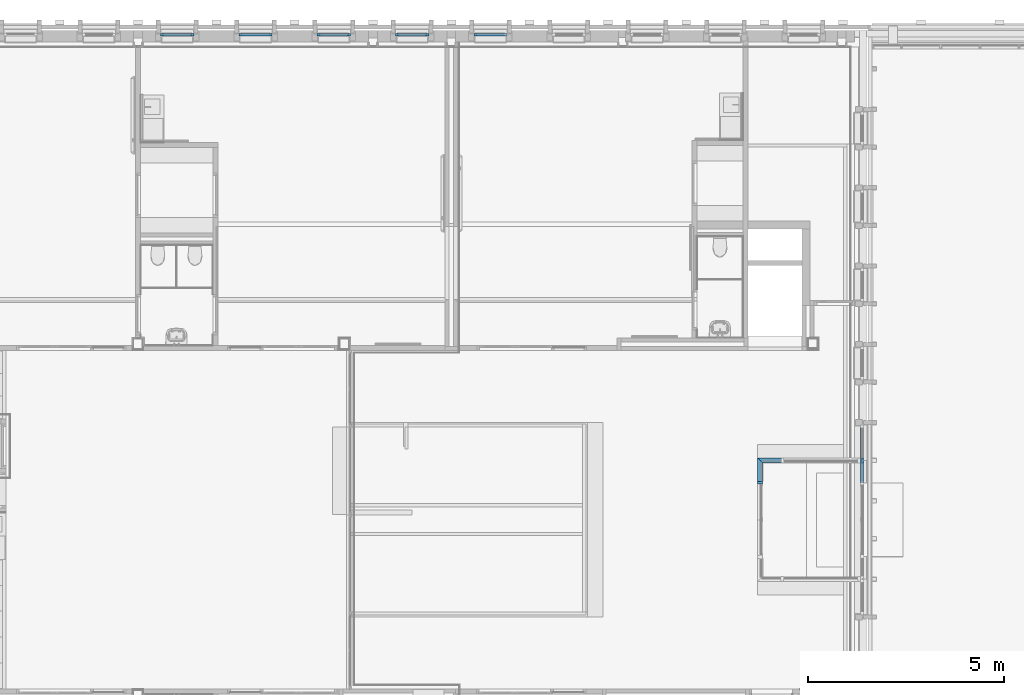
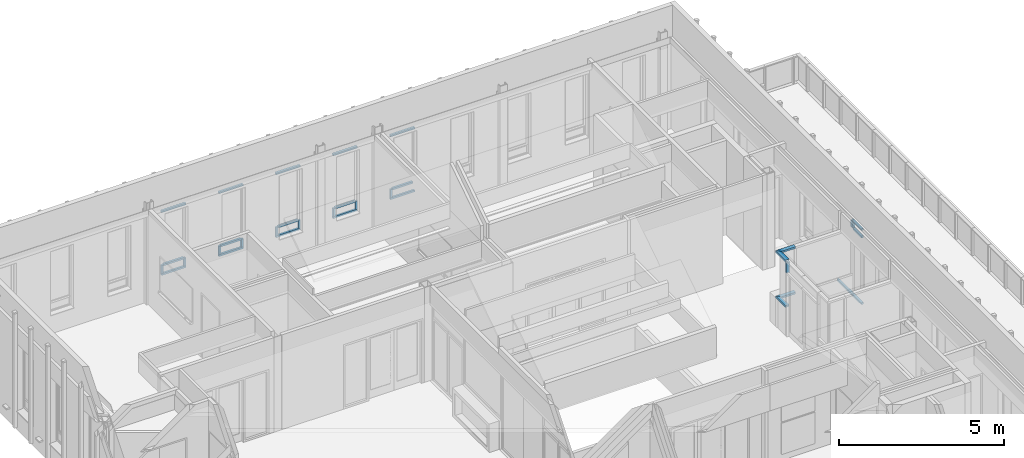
# One storey, part 14 of 118: 37 members, 9 elements without a shape of their own.
"""IFC2X3 building model written with IfcOpenShell, lengths in millimetres."""

from ifc_helpers import new_model, entity, si_unit, converted_unit, derived_unit, direction, frame, origin, origin_2d_with_axis, place, context, subcontext, project, spatial, rectangle, extrude, clip, halfspace, source, transform, mapped, material, material_list, type_object, type_shapes, element, aggregate, save


model = new_model("IFC2X3")

# Units and contexts
model_context = context("Model", 3, precision=0.01, world=origin(), true_north=direction((6.123031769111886e-17, 1.0)))
plan_context = context("Plan", 3, precision=0.01, world=origin(), true_north=direction((6.123031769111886e-17, 1.0)))
body_context = subcontext(model_context, "Body", "Model", "MODEL_VIEW")
ifc_project = project(units=[si_unit("LENGTHUNIT", "METRE", prefix="MILLI"), si_unit("AREAUNIT", "SQUARE_METRE"), si_unit("VOLUMEUNIT", "CUBIC_METRE"), converted_unit("PLANEANGLEUNIT", "DEGREE", entity("IfcRatioMeasure", 0.017453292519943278), si_unit("PLANEANGLEUNIT", "RADIAN"), dimensions=[0, 0, 0, 0, 0, 0, 0]), si_unit("MASSUNIT", "GRAM", prefix="KILO"), derived_unit("MASSDENSITYUNIT", [(si_unit("MASSUNIT", "GRAM", prefix="KILO"), 1), (si_unit("LENGTHUNIT", "METRE"), -3)]), derived_unit("IONCONCENTRATIONUNIT", [(si_unit("MASSUNIT", "GRAM", prefix="KILO"), 1), (si_unit("LENGTHUNIT", "METRE"), -3)]), derived_unit("MOMENTOFINERTIAUNIT", [(si_unit("LENGTHUNIT", "METRE"), 4)]), si_unit("TIMEUNIT", "SECOND"), si_unit("FREQUENCYUNIT", "HERTZ"), si_unit("THERMODYNAMICTEMPERATUREUNIT", "DEGREE_CELSIUS"), derived_unit("THERMALTRANSMITTANCEUNIT", [(si_unit("MASSUNIT", "GRAM", prefix="KILO"), 1), (si_unit("THERMODYNAMICTEMPERATUREUNIT", "KELVIN"), -1), (si_unit("TIMEUNIT", "SECOND"), -3)]), derived_unit("THERMALCONDUCTANCEUNIT", [(si_unit("MASSUNIT", "GRAM", prefix="KILO"), 1), (si_unit("THERMODYNAMICTEMPERATUREUNIT", "KELVIN"), -1), (si_unit("TIMEUNIT", "SECOND"), -3), (si_unit("LENGTHUNIT", "METRE"), 1)]), derived_unit("VOLUMETRICFLOWRATEUNIT", [(si_unit("LENGTHUNIT", "METRE"), 3), (si_unit("TIMEUNIT", "SECOND"), -1)]), derived_unit("MASSFLOWRATEUNIT", [(si_unit("MASSUNIT", "GRAM", prefix="KILO"), 1), (si_unit("TIMEUNIT", "SECOND"), -1)]), derived_unit("ROTATIONALFREQUENCYUNIT", [(si_unit("TIMEUNIT", "SECOND"), -1)]), si_unit("ELECTRICCURRENTUNIT", "AMPERE"), si_unit("ELECTRICVOLTAGEUNIT", "VOLT"), si_unit("POWERUNIT", "WATT"), si_unit("FORCEUNIT", "NEWTON", prefix="KILO"), si_unit("ILLUMINANCEUNIT", "LUX"), si_unit("LUMINOUSFLUXUNIT", "LUMEN"), si_unit("LUMINOUSINTENSITYUNIT", "CANDELA"), derived_unit("USERDEFINED", [(si_unit("MASSUNIT", "GRAM", prefix="KILO"), -1), (si_unit("LENGTHUNIT", "METRE"), -2), (si_unit("TIMEUNIT", "SECOND"), 3), (si_unit("LUMINOUSFLUXUNIT", "LUMEN"), 1)]), derived_unit("USERDEFINED", [(si_unit("MASSUNIT", "GRAM", prefix="KILO"), 1), (si_unit("TIMEUNIT", "SECOND"), -3), (si_unit("LENGTHUNIT", "METRE"), 3), (si_unit("ELECTRICCURRENTUNIT", "AMPERE"), -2)]), derived_unit("SOUNDPOWERUNIT", [(si_unit("MASSUNIT", "GRAM", prefix="KILO"), 1), (si_unit("TIMEUNIT", "SECOND"), -3), (si_unit("LENGTHUNIT", "METRE"), 2)]), derived_unit("SOUNDPRESSUREUNIT", [(si_unit("MASSUNIT", "GRAM", prefix="KILO"), 1), (si_unit("LENGTHUNIT", "METRE"), -1), (si_unit("TIMEUNIT", "SECOND"), -2)]), derived_unit("LINEARVELOCITYUNIT", [(si_unit("LENGTHUNIT", "METRE"), 1), (si_unit("TIMEUNIT", "SECOND"), -1)]), si_unit("PRESSUREUNIT", "PASCAL"), derived_unit("USERDEFINED", [(si_unit("MASSUNIT", "GRAM", prefix="KILO"), 1), (si_unit("LENGTHUNIT", "METRE"), -2), (si_unit("TIMEUNIT", "SECOND"), -2)]), derived_unit("LINEARFORCEUNIT", [(si_unit("MASSUNIT", "GRAM", prefix="KILO"), 1), (si_unit("TIMEUNIT", "SECOND"), -2)]), derived_unit("PLANARFORCEUNIT", [(si_unit("MASSUNIT", "GRAM", prefix="KILO"), 1), (si_unit("LENGTHUNIT", "METRE"), -1), (si_unit("TIMEUNIT", "SECOND"), -2)]), derived_unit("SPECIFICHEATCAPACITYUNIT", [(si_unit("THERMODYNAMICTEMPERATUREUNIT", "KELVIN"), -1), (si_unit("LENGTHUNIT", "METRE"), 2), (si_unit("TIMEUNIT", "SECOND"), -2)]), derived_unit("HEATINGVALUEUNIT", [(si_unit("LENGTHUNIT", "METRE"), 2), (si_unit("TIMEUNIT", "SECOND"), -2)]), derived_unit("VAPORPERMEABILITYUNIT", [(si_unit("LENGTHUNIT", "METRE"), -1), (si_unit("TIMEUNIT", "SECOND"), 1)]), derived_unit("DYNAMICVISCOSITYUNIT", [(si_unit("MASSUNIT", "GRAM", prefix="KILO"), 1), (si_unit("TIMEUNIT", "SECOND"), -1), (si_unit("LENGTHUNIT", "METRE"), -1)]), derived_unit("THERMALEXPANSIONCOEFFICIENTUNIT", [(si_unit("THERMODYNAMICTEMPERATUREUNIT", "KELVIN"), -1)]), derived_unit("MODULUSOFELASTICITYUNIT", [(si_unit("MASSUNIT", "GRAM", prefix="KILO"), 1), (si_unit("LENGTHUNIT", "METRE"), -1), (si_unit("TIMEUNIT", "SECOND"), -2)]), derived_unit("ISOTHERMALMOISTURECAPACITYUNIT", [(si_unit("LENGTHUNIT", "METRE"), 3), (si_unit("MASSUNIT", "GRAM", prefix="KILO"), -1)]), derived_unit("MOISTUREDIFFUSIVITYUNIT", [(si_unit("TIMEUNIT", "SECOND"), -1), (si_unit("LENGTHUNIT", "METRE"), 2)])], contexts=[model_context, plan_context])

# Site, building, storey
site_placement = place(None, origin())
site = spatial("IfcSite", under=ifc_project, at=site_placement, Name="Locatie", CompositionType="ELEMENT")
building_placement = place(site_placement, origin())
building = spatial("IfcBuilding", under=site, at=building_placement, Name="Bouwwerk", CompositionType="ELEMENT")
storey_placement = place(building_placement, frame((0.0, 0.0, 7800.0)))
storey = spatial("IfcBuildingStorey", under=building, at=storey_placement, Name="02 tweede verdieping", CompositionType="ELEMENT", Elevation=7800.000000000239)

# Curtain wall, member
curtain_wall_type_1 = type_object("IfcCurtainWallType", Name="Curtain Wall:NLRS_21_CW_Ontwerpkozijn_aluminium_RT72", PredefinedType="NOTDEFINED")
curtain_wall_1_placement = place(storey_placement, frame((0.0, 0.0, -7800.0)))
curtain_wall_1 = element("IfcCurtainWall", 1, at=curtain_wall_1_placement, inside=storey, type_object=curtain_wall_type_1, Name="Curtain Wall:NLRS_21_CW_Ontwerpkozijn_aluminium_RT72", ObjectType="Curtain Wall:NLRS_21_CW_Ontwerpkozijn_aluminium_RT72")
ifc_material_1 = material(Name="a_kozijn")
ifc_material_2 = material(Name="<Unnamed>")
ifc_material_list = material_list([ifc_material_2, ifc_material_1])
member_type_1 = type_object("IfcMemberType", Name="Rectangular Mullion:RT72_Vb_raam", PredefinedType="MULLION", material=ifc_material_list)
shared_shape_1 = source(origin(), body_context, "Body", "SweptSolid", [
    extrude(rectangle(XDim=71.99999999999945, YDim=68.00000000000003, at=origin_2d_with_axis()), frame((-34.0, -36.0, -850.0), z_axis=(0.0, 0.0, 1.0), x_axis=(0.0, -1.0, 0.0)), (0.0, 0.0, 1.0), 850.0000000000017),
])
type_shapes(member_type_1, [shared_shape_1])
member_1_placement = place(curtain_wall_1_placement, frame((25725.0, 34553.0, 10863.0), z_axis=(1.0, 0.0, 0.0), x_axis=(0.0, 0.0, 1.0)))
member_1 = element("IfcMember", 2, at=member_1_placement, type_object=member_type_1, material=ifc_material_1, Name="Rectangular Mullion:RT72_Vb_raam", ObjectType="Rectangular Mullion:RT72_Vb_raam", context=body_context, shape_type="MappedRepresentation", body=[
    mapped(shared_shape_1, transform((0.0, 0.0, 0.0), scale=1.0)),
])

curtain_wall_2_placement = place(storey_placement, frame((0.0, 0.0, -7800.0)))
curtain_wall_2 = element("IfcCurtainWall", 3, at=curtain_wall_2_placement, inside=storey, type_object=curtain_wall_type_1, Name="Curtain Wall:NLRS_21_CW_Ontwerpkozijn_aluminium_RT72", ObjectType="Curtain Wall:NLRS_21_CW_Ontwerpkozijn_aluminium_RT72")
member_2_placement = place(curtain_wall_2_placement, frame((19725.0, 34553.0, 10863.0), z_axis=(1.0, 0.0, 0.0), x_axis=(0.0, 0.0, 1.0)))
member_2 = element("IfcMember", 4, at=member_2_placement, type_object=member_type_1, material=ifc_material_1, Name="Rectangular Mullion:RT72_Vb_raam", ObjectType="Rectangular Mullion:RT72_Vb_raam", context=body_context, shape_type="MappedRepresentation", body=[
    mapped(shared_shape_1, transform((0.0, 0.0, 0.0), scale=1.0)),
])

curtain_wall_3_placement = place(storey_placement, frame((0.0, 0.0, -7800.0)))
curtain_wall_3 = element("IfcCurtainWall", 5, at=curtain_wall_3_placement, inside=storey, type_object=curtain_wall_type_1, Name="Curtain Wall:NLRS_21_CW_Ontwerpkozijn_aluminium_RT72", ObjectType="Curtain Wall:NLRS_21_CW_Ontwerpkozijn_aluminium_RT72")
member_3_placement = place(curtain_wall_3_placement, frame((23725.0, 34553.0, 10863.0), z_axis=(1.0, 0.0, 0.0), x_axis=(0.0, 0.0, 1.0)))
member_3 = element("IfcMember", 6, at=member_3_placement, type_object=member_type_1, material=ifc_material_1, Name="Rectangular Mullion:RT72_Vb_raam", ObjectType="Rectangular Mullion:RT72_Vb_raam", context=body_context, shape_type="MappedRepresentation", body=[
    mapped(shared_shape_1, transform((0.0, 0.0, 0.0), scale=1.0)),
])

curtain_wall_4_placement = place(storey_placement, frame((0.0, 0.0, -7800.0)))
curtain_wall_4 = element("IfcCurtainWall", 7, at=curtain_wall_4_placement, inside=storey, type_object=curtain_wall_type_1, Name="Curtain Wall:NLRS_21_CW_Ontwerpkozijn_aluminium_RT72", ObjectType="Curtain Wall:NLRS_21_CW_Ontwerpkozijn_aluminium_RT72")
member_4_placement = place(curtain_wall_4_placement, frame((21725.0, 34553.0, 10863.0), z_axis=(1.0, 0.0, 0.0), x_axis=(0.0, 0.0, 1.0)))
member_4 = element("IfcMember", 8, at=member_4_placement, type_object=member_type_1, material=ifc_material_1, Name="Rectangular Mullion:RT72_Vb_raam", ObjectType="Rectangular Mullion:RT72_Vb_raam", context=body_context, shape_type="MappedRepresentation", body=[
    mapped(shared_shape_1, transform((0.0, 0.0, 0.0), scale=1.0)),
])

curtain_wall_5_placement = place(storey_placement, frame((0.0, 0.0, -7800.0)))
curtain_wall_5 = element("IfcCurtainWall", 9, at=curtain_wall_5_placement, inside=storey, type_object=curtain_wall_type_1, Name="Curtain Wall:NLRS_21_CW_Ontwerpkozijn_aluminium_RT72", ObjectType="Curtain Wall:NLRS_21_CW_Ontwerpkozijn_aluminium_RT72")
member_5_placement = place(curtain_wall_5_placement, frame((17725.0, 34553.0, 10863.0), z_axis=(1.0, 0.0, 0.0), x_axis=(0.0, 0.0, 1.0)))
member_5 = element("IfcMember", 10, at=member_5_placement, type_object=member_type_1, material=ifc_material_1, Name="Rectangular Mullion:RT72_Vb_raam", ObjectType="Rectangular Mullion:RT72_Vb_raam", context=body_context, shape_type="MappedRepresentation", body=[
    mapped(shared_shape_1, transform((0.0, 0.0, 0.0), scale=1.0)),
])

# Member
member_type_2 = type_object("IfcMemberType", Name="Rectangular Mullion:RT72_Vo_raam", PredefinedType="MULLION", material=ifc_material_list)
shared_shape_2 = source(origin(), body_context, "Body", "SweptSolid", [
    extrude(rectangle(XDim=71.99999999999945, YDim=68.00000000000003, at=origin_2d_with_axis()), frame((-34.0, -36.0, -850.0), z_axis=(0.0, 0.0, 1.0), x_axis=(0.0, -1.0, 0.0)), (0.0, 0.0, 1.0), 850.0000000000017),
])
type_shapes(member_type_2, [shared_shape_2])
member_6_placement = place(curtain_wall_1_placement, frame((24875.0, 34553.0, 8473.0), z_axis=(-1.0, 0.0, 0.0), x_axis=(0.0, 0.0, -1.0)))
member_6 = element("IfcMember", 11, at=member_6_placement, type_object=member_type_2, material=ifc_material_1, Name="Rectangular Mullion:RT72_Vo_raam", ObjectType="Rectangular Mullion:RT72_Vo_raam", context=body_context, shape_type="MappedRepresentation", body=[
    mapped(shared_shape_2, transform((0.0, 0.0, 0.0), scale=1.0)),
])

member_7_placement = place(curtain_wall_2_placement, frame((18875.0, 34553.0, 8473.0), z_axis=(-1.0, 0.0, 0.0), x_axis=(0.0, 0.0, -1.0)))
member_7 = element("IfcMember", 12, at=member_7_placement, type_object=member_type_2, material=ifc_material_1, Name="Rectangular Mullion:RT72_Vo_raam", ObjectType="Rectangular Mullion:RT72_Vo_raam", context=body_context, shape_type="MappedRepresentation", body=[
    mapped(shared_shape_2, transform((0.0, 0.0, 0.0), scale=1.0)),
])

member_8_placement = place(curtain_wall_3_placement, frame((22875.0, 34553.0, 8473.0), z_axis=(-1.0, 0.0, 0.0), x_axis=(0.0, 0.0, -1.0)))
member_8 = element("IfcMember", 13, at=member_8_placement, type_object=member_type_2, material=ifc_material_1, Name="Rectangular Mullion:RT72_Vo_raam", ObjectType="Rectangular Mullion:RT72_Vo_raam", context=body_context, shape_type="MappedRepresentation", body=[
    mapped(shared_shape_2, transform((0.0, 0.0, 0.0), scale=1.0)),
])

member_9_placement = place(curtain_wall_4_placement, frame((20875.0, 34553.0, 8473.0), z_axis=(-1.0, 0.0, 0.0), x_axis=(0.0, 0.0, -1.0)))
member_9 = element("IfcMember", 14, at=member_9_placement, type_object=member_type_2, material=ifc_material_1, Name="Rectangular Mullion:RT72_Vo_raam", ObjectType="Rectangular Mullion:RT72_Vo_raam", context=body_context, shape_type="MappedRepresentation", body=[
    mapped(shared_shape_2, transform((0.0, 0.0, 0.0), scale=1.0)),
])

member_10_placement = place(curtain_wall_5_placement, frame((16875.0, 34553.0, 8473.0), z_axis=(-1.0, 0.0, 0.0), x_axis=(0.0, 0.0, -1.0)))
member_10 = element("IfcMember", 15, at=member_10_placement, type_object=member_type_2, material=ifc_material_1, Name="Rectangular Mullion:RT72_Vo_raam", ObjectType="Rectangular Mullion:RT72_Vo_raam", context=body_context, shape_type="MappedRepresentation", body=[
    mapped(shared_shape_2, transform((0.0, 0.0, 0.0), scale=1.0)),
])

member_type_3 = type_object("IfcMemberType", Name="Rectangular Mullion:RT72_Hl_raam", PredefinedType="MULLION", material=ifc_material_list)
shared_shape_3 = source(origin(), body_context, "Body", "SweptSolid", [
    extrude(rectangle(XDim=71.99999999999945, YDim=68.00000000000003, at=origin_2d_with_axis()), frame((-34.0, -36.0, -301.0), z_axis=(0.0, 0.0, 1.0), x_axis=(0.0, -1.0, 0.0)), (0.0, 0.0, 1.0), 301.00000000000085),
])
type_shapes(member_type_3, [shared_shape_3])
member_11_placement = place(curtain_wall_2_placement, frame((19725.0, 34553.0, 8541.0), z_axis=(0.0, 0.0, -1.0), x_axis=(1.0, 0.0, 0.0)))
member_11 = element("IfcMember", 16, at=member_11_placement, type_object=member_type_3, material=ifc_material_1, Name="Rectangular Mullion:RT72_Hl_raam", ObjectType="Rectangular Mullion:RT72_Hl_raam", context=body_context, shape_type="MappedRepresentation", body=[
    mapped(shared_shape_3, transform((0.0, 0.0, 0.0), scale=1.0)),
])

member_12_placement = place(curtain_wall_3_placement, frame((23725.0, 34553.0, 8541.0), z_axis=(0.0, 0.0, -1.0), x_axis=(1.0, 0.0, 0.0)))
member_12 = element("IfcMember", 17, at=member_12_placement, type_object=member_type_3, material=ifc_material_1, Name="Rectangular Mullion:RT72_Hl_raam", ObjectType="Rectangular Mullion:RT72_Hl_raam", context=body_context, shape_type="MappedRepresentation", body=[
    mapped(shared_shape_3, transform((0.0, 0.0, 0.0), scale=1.0)),
])

member_13_placement = place(curtain_wall_4_placement, frame((21725.0, 34553.0, 8541.0), z_axis=(0.0, 0.0, -1.0), x_axis=(1.0, 0.0, 0.0)))
member_13 = element("IfcMember", 18, at=member_13_placement, type_object=member_type_3, material=ifc_material_1, Name="Rectangular Mullion:RT72_Hl_raam", ObjectType="Rectangular Mullion:RT72_Hl_raam", context=body_context, shape_type="MappedRepresentation", body=[
    mapped(shared_shape_3, transform((0.0, 0.0, 0.0), scale=1.0)),
])

member_14_placement = place(curtain_wall_5_placement, frame((17725.0, 34553.0, 8541.0), z_axis=(0.0, 0.0, -1.0), x_axis=(1.0, 0.0, 0.0)))
member_14 = element("IfcMember", 19, at=member_14_placement, type_object=member_type_3, material=ifc_material_1, Name="Rectangular Mullion:RT72_Hl_raam", ObjectType="Rectangular Mullion:RT72_Hl_raam", context=body_context, shape_type="MappedRepresentation", body=[
    mapped(shared_shape_3, transform((0.0, 0.0, 0.0), scale=1.0)),
])

member_type_4 = type_object("IfcMemberType", Name="Rectangular Mullion:RT72_Hr_raam", PredefinedType="MULLION", material=ifc_material_list)
shared_shape_4 = source(origin(), body_context, "Body", "SweptSolid", [
    extrude(rectangle(XDim=71.99999999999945, YDim=68.00000000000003, at=origin_2d_with_axis()), frame((-34.0, -36.0, -301.0), z_axis=(0.0, 0.0, 1.0), x_axis=(0.0, -1.0, 0.0)), (0.0, 0.0, 1.0), 301.00000000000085),
])
type_shapes(member_type_4, [shared_shape_4])
member_15_placement = place(curtain_wall_1_placement, frame((24875.0, 34553.0, 8842.0), z_axis=(0.0, 0.0, 1.0), x_axis=(-1.0, 0.0, 0.0)))
member_15 = element("IfcMember", 20, at=member_15_placement, type_object=member_type_4, material=ifc_material_1, Name="Rectangular Mullion:RT72_Hr_raam", ObjectType="Rectangular Mullion:RT72_Hr_raam", context=body_context, shape_type="MappedRepresentation", body=[
    mapped(shared_shape_4, transform((0.0, 0.0, 0.0), scale=1.0)),
])

member_16_placement = place(curtain_wall_2_placement, frame((18875.0, 34553.0, 8842.0), z_axis=(0.0, 0.0, 1.0), x_axis=(-1.0, 0.0, 0.0)))
member_16 = element("IfcMember", 21, at=member_16_placement, type_object=member_type_4, material=ifc_material_1, Name="Rectangular Mullion:RT72_Hr_raam", ObjectType="Rectangular Mullion:RT72_Hr_raam", context=body_context, shape_type="MappedRepresentation", body=[
    mapped(shared_shape_4, transform((0.0, 0.0, 0.0), scale=1.0)),
])

member_17_placement = place(curtain_wall_3_placement, frame((22875.0, 34553.0, 8842.0), z_axis=(0.0, 0.0, 1.0), x_axis=(-1.0, 0.0, 0.0)))
member_17 = element("IfcMember", 22, at=member_17_placement, type_object=member_type_4, material=ifc_material_1, Name="Rectangular Mullion:RT72_Hr_raam", ObjectType="Rectangular Mullion:RT72_Hr_raam", context=body_context, shape_type="MappedRepresentation", body=[
    mapped(shared_shape_4, transform((0.0, 0.0, 0.0), scale=1.0)),
])

member_18_placement = place(curtain_wall_4_placement, frame((20875.0, 34553.0, 8842.0), z_axis=(0.0, 0.0, 1.0), x_axis=(-1.0, 0.0, 0.0)))
member_18 = element("IfcMember", 23, at=member_18_placement, type_object=member_type_4, material=ifc_material_1, Name="Rectangular Mullion:RT72_Hr_raam", ObjectType="Rectangular Mullion:RT72_Hr_raam", context=body_context, shape_type="MappedRepresentation", body=[
    mapped(shared_shape_4, transform((0.0, 0.0, 0.0), scale=1.0)),
])

member_19_placement = place(curtain_wall_5_placement, frame((16875.0, 34553.0, 8842.0), z_axis=(0.0, 0.0, 1.0), x_axis=(-1.0, 0.0, 0.0)))
member_19 = element("IfcMember", 24, at=member_19_placement, type_object=member_type_4, material=ifc_material_1, Name="Rectangular Mullion:RT72_Hr_raam", ObjectType="Rectangular Mullion:RT72_Hr_raam", context=body_context, shape_type="MappedRepresentation", body=[
    mapped(shared_shape_4, transform((0.0, 0.0, 0.0), scale=1.0)),
])

member_type_5 = type_object("IfcMemberType", Name="Rectangular Mullion:RT72_Vb_raam", PredefinedType="MULLION", material=ifc_material_list)
shared_shape_5 = source(origin(), body_context, "Body", "SweptSolid", [
    extrude(rectangle(XDim=71.99999999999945, YDim=68.00000000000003, at=origin_2d_with_axis()), frame((0.0, -36.0, -714.0), z_axis=(0.0, 0.0, 1.0), x_axis=(0.0, -1.0, 0.0)), (0.0, 0.0, 1.0), 714.0000000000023),
])
type_shapes(member_type_5, [shared_shape_5])
member_20_placement = place(curtain_wall_1_placement, frame((25657.0, 34553.0, 8842.0), z_axis=(1.0, 0.0, 0.0), x_axis=(0.0, 0.0, 1.0)))
member_20 = element("IfcMember", 25, at=member_20_placement, type_object=member_type_5, material=ifc_material_1, Name="Rectangular Mullion:RT72_Vb_raam", ObjectType="Rectangular Mullion:RT72_Vb_raam", context=body_context, shape_type="MappedRepresentation", body=[
    mapped(shared_shape_5, transform((0.0, 0.0, 0.0), scale=1.0)),
])

aggregate(curtain_wall_1, [member_1, member_6, member_15, member_20])

member_21_placement = place(curtain_wall_2_placement, frame((19657.0, 34553.0, 8842.0), z_axis=(1.0, 0.0, 0.0), x_axis=(0.0, 0.0, 1.0)))
member_21 = element("IfcMember", 26, at=member_21_placement, type_object=member_type_5, material=ifc_material_1, Name="Rectangular Mullion:RT72_Vb_raam", ObjectType="Rectangular Mullion:RT72_Vb_raam", context=body_context, shape_type="MappedRepresentation", body=[
    mapped(shared_shape_5, transform((0.0, 0.0, 0.0), scale=1.0)),
])

aggregate(curtain_wall_2, [member_2, member_7, member_11, member_16, member_21])

member_22_placement = place(curtain_wall_3_placement, frame((23657.0, 34553.0, 8842.0), z_axis=(1.0, 0.0, 0.0), x_axis=(0.0, 0.0, 1.0)))
member_22 = element("IfcMember", 27, at=member_22_placement, type_object=member_type_5, material=ifc_material_1, Name="Rectangular Mullion:RT72_Vb_raam", ObjectType="Rectangular Mullion:RT72_Vb_raam", context=body_context, shape_type="MappedRepresentation", body=[
    mapped(shared_shape_5, transform((0.0, 0.0, 0.0), scale=1.0)),
])

aggregate(curtain_wall_3, [member_3, member_8, member_12, member_17, member_22])

member_23_placement = place(curtain_wall_4_placement, frame((21657.0, 34553.0, 8842.0), z_axis=(1.0, 0.0, 0.0), x_axis=(0.0, 0.0, 1.0)))
member_23 = element("IfcMember", 28, at=member_23_placement, type_object=member_type_5, material=ifc_material_1, Name="Rectangular Mullion:RT72_Vb_raam", ObjectType="Rectangular Mullion:RT72_Vb_raam", context=body_context, shape_type="MappedRepresentation", body=[
    mapped(shared_shape_5, transform((0.0, 0.0, 0.0), scale=1.0)),
])

aggregate(curtain_wall_4, [member_4, member_9, member_13, member_18, member_23])

member_24_placement = place(curtain_wall_5_placement, frame((17657.0, 34553.0, 8842.0), z_axis=(1.0, 0.0, 0.0), x_axis=(0.0, 0.0, 1.0)))
member_24 = element("IfcMember", 29, at=member_24_placement, type_object=member_type_5, material=ifc_material_1, Name="Rectangular Mullion:RT72_Vb_raam", ObjectType="Rectangular Mullion:RT72_Vb_raam", context=body_context, shape_type="MappedRepresentation", body=[
    mapped(shared_shape_5, transform((0.0, 0.0, 0.0), scale=1.0)),
])

aggregate(curtain_wall_5, [member_5, member_10, member_14, member_19, member_24])

# Curtain wall, members
curtain_wall_6_placement = place(storey_placement, frame((0.0, 0.0, -7800.0)))
curtain_wall_6 = element("IfcCurtainWall", 30, at=curtain_wall_6_placement, inside=storey, type_object=curtain_wall_type_1, Name="Curtain Wall:NLRS_21_CW_Ontwerpkozijn_aluminium_RT72", ObjectType="Curtain Wall:NLRS_21_CW_Ontwerpkozijn_aluminium_RT72")
member_type_6 = type_object("IfcMemberType", Name="Rectangular Mullion:RT72_Vo_raam", PredefinedType="MULLION", material=ifc_material_list)
shared_shape_6 = source(origin(), body_context, "Body", "SweptSolid", [
    extrude(rectangle(XDim=71.99999999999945, YDim=68.00000000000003, at=origin_2d_with_axis()), frame((-34.0, -36.0, -875.499999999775), z_axis=(0.0, 0.0, 1.0), x_axis=(0.0, -1.0, 0.0)), (0.0, 0.0, 1.0), 875.499999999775),
])
type_shapes(member_type_6, [shared_shape_6])
member_25_placement = place(curtain_wall_6_placement, frame((34753.0, 24625.0, 8056.0), z_axis=(0.0, 1.0, 0.0), x_axis=(0.0, 0.0, -1.0)))
member_25 = element("IfcMember", 31, at=member_25_placement, type_object=member_type_6, material=ifc_material_1, Name="Rectangular Mullion:RT72_Vo_raam", ObjectType="Rectangular Mullion:RT72_Vo_raam", context=body_context, shape_type="MappedRepresentation", body=[
    mapped(shared_shape_6, transform((0.0, 0.0, 0.0), scale=1.0)),
])
member_type_7 = type_object("IfcMemberType", Name="Rectangular Mullion:RT72_Vb_raam", PredefinedType="MULLION", material=ifc_material_list)
shared_shape_7 = source(origin(), body_context, "Body", "SweptSolid", [
    extrude(rectangle(XDim=71.99999999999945, YDim=68.00000000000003, at=origin_2d_with_axis()), frame((-34.0, -36.0, -537.4999999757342), z_axis=(0.0, 0.0, 1.0), x_axis=(0.0, -1.0, 0.0)), (0.0, 0.0, 1.0), 537.4999999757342),
])
type_shapes(member_type_7, [shared_shape_7])
member_26_placement = place(curtain_wall_6_placement, frame((34753.0, 23139.0, 10863.0), z_axis=(0.0, -1.0, 0.0), x_axis=(0.0, 0.0, 1.0)))
member_26 = element("IfcMember", 32, at=member_26_placement, type_object=member_type_7, material=ifc_material_1, Name="Rectangular Mullion:RT72_Vb_raam", ObjectType="Rectangular Mullion:RT72_Vb_raam", context=body_context, shape_type="MappedRepresentation", body=[
    mapped(shared_shape_7, transform((0.0, 0.0, 0.0), scale=1.0)),
])
member_type_8 = type_object("IfcMemberType", Name="Rectangular Mullion:RT72_Vb_raam", PredefinedType="MULLION", material=ifc_material_list)
shared_shape_8 = source(origin(), body_context, "Body", "SweptSolid", [
    extrude(rectangle(XDim=71.99999999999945, YDim=68.00000000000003, at=origin_2d_with_axis()), frame((-34.0, -36.0, -73.0), z_axis=(0.0, 0.0, 1.0), x_axis=(0.0, -1.0, 0.0)), (0.0, 0.0, 1.0), 72.9999999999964),
])
type_shapes(member_type_8, [shared_shape_8])
member_27_placement = place(curtain_wall_6_placement, frame((34753.0, 23676.499999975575, 10863.0), z_axis=(0.0, -1.0, 0.0), x_axis=(0.0, 0.0, 1.0)))
member_27 = element("IfcMember", 33, at=member_27_placement, type_object=member_type_8, material=ifc_material_1, Name="Rectangular Mullion:RT72_Vb_raam", ObjectType="Rectangular Mullion:RT72_Vb_raam", context=body_context, shape_type="MappedRepresentation", body=[
    mapped(shared_shape_8, transform((0.0, 0.0, 0.0), scale=1.0)),
])
member_type_9 = type_object("IfcMemberType", Name="Rectangular Mullion:RT72_Hl_raam", PredefinedType="MULLION", material=ifc_material_list)
shared_shape_9 = source(origin(), body_context, "Body", "SweptSolid", [
    extrude(rectangle(XDim=71.99999999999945, YDim=68.00000000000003, at=origin_2d_with_axis()), frame((0.0, -36.0, -239.0), z_axis=(0.0, 0.0, 1.0), x_axis=(0.0, -1.0, 0.0)), (0.0, 0.0, 1.0), 238.9999999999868),
])
type_shapes(member_type_9, [shared_shape_9])
member_28_placement = place(curtain_wall_6_placement, frame((34753.0, 23749.49999997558, 10556.0), z_axis=(0.0, 0.0, -1.0), x_axis=(0.0, -1.0, 0.0)))
member_28 = element("IfcMember", 34, at=member_28_placement, type_object=member_type_9, material=ifc_material_1, Name="Rectangular Mullion:RT72_Hl_raam", ObjectType="Rectangular Mullion:RT72_Hl_raam", context=body_context, shape_type="MappedRepresentation", body=[
    mapped(shared_shape_9, transform((0.0, 0.0, 0.0), scale=1.0)),
])
member_type_10 = type_object("IfcMemberType", Name="Rectangular Mullion:RT72_Vo_raam", PredefinedType="MULLION", material=ifc_material_list)
shared_shape_10 = source(origin(), body_context, "Body", "SweptSolid", [
    extrude(rectangle(XDim=71.99999999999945, YDim=68.00000000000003, at=origin_2d_with_axis()), frame((-34.0, -36.0, -73.0), z_axis=(0.0, 0.0, 1.0), x_axis=(0.0, -1.0, 0.0)), (0.0, 0.0, 1.0), 72.9999999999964),
])
type_shapes(member_type_10, [shared_shape_10])
member_29_placement = place(curtain_wall_6_placement, frame((34753.0, 23749.49999997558, 8056.0), z_axis=(0.0, 1.0, 0.0), x_axis=(0.0, 0.0, -1.0)))
member_29 = element("IfcMember", 35, at=member_29_placement, type_object=member_type_10, material=ifc_material_1, Name="Rectangular Mullion:RT72_Vo_raam", ObjectType="Rectangular Mullion:RT72_Vo_raam", context=body_context, shape_type="MappedRepresentation", body=[
    mapped(shared_shape_10, transform((0.0, 0.0, 0.0), scale=1.0)),
])
member_type_11 = type_object("IfcMemberType", Name="Rectangular Mullion:RT72_Hl_raam", PredefinedType="MULLION", material=ifc_material_list)
shared_shape_11 = source(origin(), body_context, "Body", "SweptSolid", [
    extrude(rectangle(XDim=71.99999999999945, YDim=68.00000000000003, at=origin_2d_with_axis()), frame((0.0, -36.0, -239.0), z_axis=(0.0, 0.0, 1.0), x_axis=(0.0, -1.0, 0.0)), (0.0, 0.0, 1.0), 238.9999999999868),
])
type_shapes(member_type_11, [shared_shape_11])
member_30_placement = place(curtain_wall_6_placement, frame((34753.0, 23676.499999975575, 10556.0), z_axis=(0.0, 0.0, -1.0), x_axis=(0.0, -1.0, 0.0)))
member_30 = element("IfcMember", 36, at=member_30_placement, type_object=member_type_11, material=ifc_material_1, Name="Rectangular Mullion:RT72_Hl_raam", ObjectType="Rectangular Mullion:RT72_Hl_raam", context=body_context, shape_type="MappedRepresentation", body=[
    mapped(shared_shape_11, transform((0.0, 0.0, 0.0), scale=1.0)),
])
member_type_12 = type_object("IfcMemberType", Name="Rectangular Mullion:RT72_Vo_raam", PredefinedType="MULLION", material=ifc_material_list)
shared_shape_12 = source(origin(), body_context, "Body", "SweptSolid", [
    extrude(rectangle(XDim=71.99999999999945, YDim=68.00000000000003, at=origin_2d_with_axis()), frame((-34.0, -36.0, -537.4999999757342), z_axis=(0.0, 0.0, 1.0), x_axis=(0.0, -1.0, 0.0)), (0.0, 0.0, 1.0), 537.4999999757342),
])
type_shapes(member_type_12, [shared_shape_12])
member_31_placement = place(curtain_wall_6_placement, frame((34753.0, 23676.499999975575, 8056.0), z_axis=(0.0, 1.0, 0.0), x_axis=(0.0, 0.0, -1.0)))
member_31 = element("IfcMember", 37, at=member_31_placement, type_object=member_type_12, material=ifc_material_1, Name="Rectangular Mullion:RT72_Vo_raam", ObjectType="Rectangular Mullion:RT72_Vo_raam", context=body_context, shape_type="MappedRepresentation", body=[
    mapped(shared_shape_12, transform((0.0, 0.0, 0.0), scale=1.0)),
])
member_type_13 = type_object("IfcMemberType", Name="Rectangular Mullion:RT72_Vm_raam", PredefinedType="MULLION", material=ifc_material_list)
shared_shape_13 = source(origin(), body_context, "Body", "SweptSolid", [
    extrude(rectangle(XDim=71.99999999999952, YDim=77.99999999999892, at=origin_2d_with_axis()), frame((0.0, -36.0, -503.49999997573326), z_axis=(0.0, 0.0, 1.0), x_axis=(0.0, -1.0, 0.0)), (0.0, 0.0, 1.0), 503.49999997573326),
])
type_shapes(member_type_13, [shared_shape_13])
member_32_placement = place(curtain_wall_6_placement, frame((34753.0, 23139.0, 10556.0), z_axis=(0.0, -1.0, 0.0), x_axis=(0.0, 0.0, 1.0)))
member_32 = element("IfcMember", 38, at=member_32_placement, type_object=member_type_13, material=ifc_material_1, Name="Rectangular Mullion:RT72_Vm_raam", ObjectType="Rectangular Mullion:RT72_Vm_raam", context=body_context, shape_type="MappedRepresentation", body=[
    mapped(shared_shape_13, transform((0.0, 0.0, 0.0), scale=1.0)),
])
aggregate(curtain_wall_6, [member_25, member_26, member_29, member_28, member_27, member_31, member_32, member_30])

# Curtain wall, member
curtain_wall_type_2 = type_object("IfcCurtainWallType", Name="Curtain Wall:32_ontwerpkozijn binnen 125*67", PredefinedType="NOTDEFINED")
curtain_wall_7_placement = place(storey_placement, frame((0.0, 0.0, -7800.0)))
curtain_wall_7 = element("IfcCurtainWall", 39, at=curtain_wall_7_placement, inside=storey, type_object=curtain_wall_type_2, Name="Curtain Wall:32_ontwerpkozijn binnen 125*67", ObjectType="Curtain Wall:32_ontwerpkozijn binnen 125*67")
ifc_material_3 = material(Name="RAL 9010 - wit")
member_type_14 = type_object("IfcMemberType", Name="Rectangular Mullion:67x125", PredefinedType="MULLION", material=ifc_material_3)
shared_shape_14 = source(origin(), body_context, "Body", "SweptSolid", [
    extrude(rectangle(XDim=125.00000000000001, YDim=67.0, at=origin_2d_with_axis()), frame((-33.5, 62.50000000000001, -379.50000000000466), z_axis=(0.0, 0.0, 1.0), x_axis=(0.0, -1.0, 0.0)), (0.0, 0.0, 1.0), 379.50000000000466),
])
type_shapes(member_type_14, [shared_shape_14])
member_33_placement = place(curtain_wall_7_placement, frame((32250.0, 23183.0, 10533.0), z_axis=(0.0, 0.0, 1.0), x_axis=(0.0, 1.0, 0.0)))
member_33 = element("IfcMember", 40, at=member_33_placement, type_object=member_type_14, material=ifc_material_3, Name="Rectangular Mullion:67x125", ObjectType="Rectangular Mullion:67x125", context=body_context, shape_type="MappedRepresentation", body=[
    mapped(shared_shape_14, transform((0.0, 0.0, 0.0), scale=1.0)),
])
aggregate(curtain_wall_7, [member_33])

# Curtain wall, members
curtain_wall_8_placement = place(storey_placement, frame((0.0, 0.0, -7800.0)))
curtain_wall_8 = element("IfcCurtainWall", 41, at=curtain_wall_8_placement, inside=storey, type_object=curtain_wall_type_2, Name="Curtain Wall:32_ontwerpkozijn binnen 125*67", ObjectType="Curtain Wall:32_ontwerpkozijn binnen 125*67")
member_type_15 = type_object("IfcMemberType", Name="Rectangular Mullion:67x125", PredefinedType="MULLION", material=ifc_material_3)
shared_shape_15 = source(origin(), body_context, "Body", "SweptSolid", [
    clip(extrude(rectangle(XDim=125.00000000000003, YDim=67.0, at=origin_2d_with_axis()), frame((-33.5, 62.500000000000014, -500.4999999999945), z_axis=(0.0, 0.0, 1.0), x_axis=(0.0, -1.0, 0.0)), (0.0, 0.0, 1.0), 625.4999999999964), halfspace(frame((304.8, 0.0, 0.0), z_axis=(0.0, -0.7071067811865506, 0.7071067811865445), x_axis=(0.0, -0.7071067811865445, -0.7071067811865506)), False)),
])
type_shapes(member_type_15, [shared_shape_15])
member_34_placement = place(curtain_wall_8_placement, frame((32250.0, 23650.0, 10600.0), z_axis=(-1.0, 0.0, 0.0), x_axis=(0.0, 0.0, 1.0)))
member_34 = element("IfcMember", 42, at=member_34_placement, type_object=member_type_15, material=ifc_material_3, Name="Rectangular Mullion:67x125", ObjectType="Rectangular Mullion:67x125", context=body_context, shape_type="MappedRepresentation", body=[
    mapped(shared_shape_15, transform((0.0, 0.0, 0.0), scale=1.0)),
])
member_type_16 = type_object("IfcMemberType", Name="Rectangular Mullion:67x125", PredefinedType="MULLION", material=ifc_material_3)
shared_shape_16 = source(origin(), body_context, "Body", "SweptSolid", [
    clip(extrude(rectangle(XDim=125.00000000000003, YDim=67.0, at=origin_2d_with_axis()), frame((-33.5, 62.500000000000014, -625.5000000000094), z_axis=(0.0, 0.0, 1.0), x_axis=(0.0, -1.0, 0.0)), (0.0, 0.0, 1.0), 625.5000000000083), halfspace(frame((304.8, 0.0, -500.49999999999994), z_axis=(0.0, -0.7071067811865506, -0.7071067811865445), x_axis=(0.0, -0.7071067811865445, 0.7071067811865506)), False)),
])
type_shapes(member_type_16, [shared_shape_16])
member_35_placement = place(curtain_wall_8_placement, frame((32750.50000000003, 23650.0, 8850.0), z_axis=(1.0, 0.0, 0.0), x_axis=(0.0, 0.0, -1.0)))
member_35 = element("IfcMember", 43, at=member_35_placement, type_object=member_type_16, material=ifc_material_3, Name="Rectangular Mullion:67x125", ObjectType="Rectangular Mullion:67x125", context=body_context, shape_type="MappedRepresentation", body=[
    mapped(shared_shape_16, transform((0.0, 0.0, 0.0), scale=1.0)),
])
aggregate(curtain_wall_8, [member_34, member_35])

curtain_wall_9_placement = place(storey_placement, frame((0.0, 0.0, -7800.0)))
curtain_wall_9 = element("IfcCurtainWall", 44, at=curtain_wall_9_placement, inside=storey, type_object=curtain_wall_type_2, Name="Curtain Wall:32_ontwerpkozijn binnen 125*67", ObjectType="Curtain Wall:32_ontwerpkozijn binnen 125*67")
member_type_17 = type_object("IfcMemberType", Name="Rectangular Mullion:67x125", PredefinedType="MULLION", material=ifc_material_3)
shared_shape_17 = source(origin(), body_context, "Body", "SweptSolid", [
    clip(extrude(rectangle(XDim=125.00000000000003, YDim=67.0, at=origin_2d_with_axis()), frame((-33.5, 62.500000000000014, -592.0), z_axis=(0.0, 0.0, 1.0), x_axis=(0.0, -1.0, 0.0)), (0.0, 0.0, 1.0), 592.0000000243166), halfspace(frame((304.8, 0.0, -467.0), z_axis=(0.0, -0.7071067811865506, -0.7071067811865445), x_axis=(0.0, -0.7071067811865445, 0.7071067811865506)), False)),
])
type_shapes(member_type_17, [shared_shape_17])
member_36_placement = place(curtain_wall_9_placement, frame((32250.0, 23183.0, 10600.0), z_axis=(0.0, -1.0, 0.0), x_axis=(0.0, 0.0, 1.0)))
member_36 = element("IfcMember", 45, at=member_36_placement, type_object=member_type_17, material=ifc_material_3, Name="Rectangular Mullion:67x125", ObjectType="Rectangular Mullion:67x125", context=body_context, shape_type="MappedRepresentation", body=[
    mapped(shared_shape_17, transform((0.0, 0.0, 0.0), scale=1.0)),
])
member_type_18 = type_object("IfcMemberType", Name="Rectangular Mullion:67x125", PredefinedType="MULLION", material=ifc_material_3)
shared_shape_18 = source(origin(), body_context, "Body", "SweptSolid", [
    clip(extrude(rectangle(XDim=125.00000000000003, YDim=67.0, at=origin_2d_with_axis()), frame((-33.5, 62.500000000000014, -467.0), z_axis=(0.0, 0.0, 1.0), x_axis=(0.0, -1.0, 0.0)), (0.0, 0.0, 1.0), 592.0000000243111), halfspace(frame((304.8, 0.0, 0.0), z_axis=(0.0, -0.7071067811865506, 0.7071067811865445), x_axis=(0.0, -0.7071067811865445, -0.7071067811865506)), False)),
])
type_shapes(member_type_18, [shared_shape_18])
member_37_placement = place(curtain_wall_9_placement, frame((32250.0, 23650.0, 8850.0), z_axis=(0.0, 1.0, 0.0), x_axis=(0.0, 0.0, -1.0)))
member_37 = element("IfcMember", 46, at=member_37_placement, type_object=member_type_18, material=ifc_material_3, Name="Rectangular Mullion:67x125", ObjectType="Rectangular Mullion:67x125", context=body_context, shape_type="MappedRepresentation", body=[
    mapped(shared_shape_18, transform((0.0, 0.0, 0.0), scale=1.0)),
])
aggregate(curtain_wall_9, [member_36, member_37])

save(model, "model.ifc")
